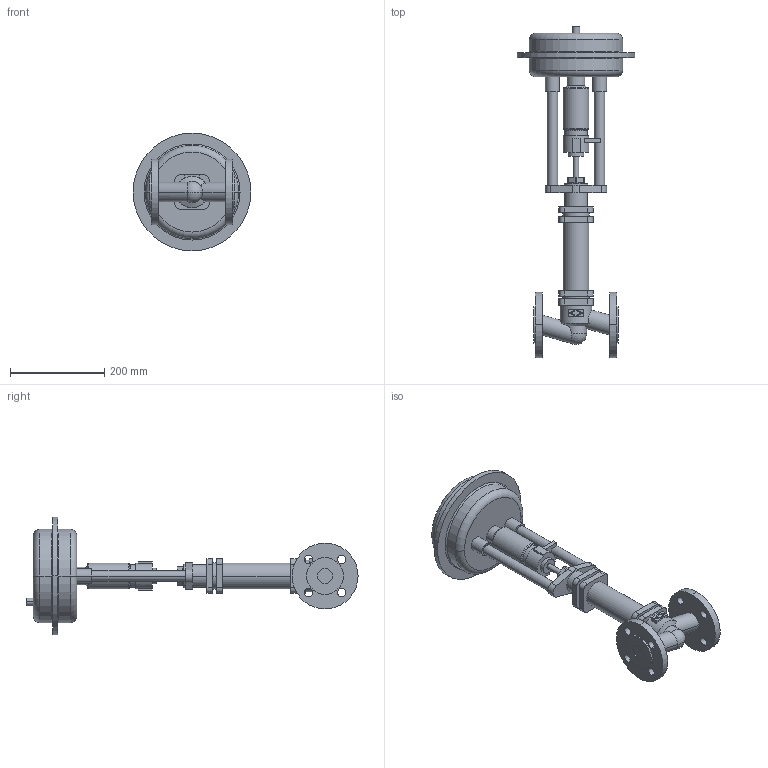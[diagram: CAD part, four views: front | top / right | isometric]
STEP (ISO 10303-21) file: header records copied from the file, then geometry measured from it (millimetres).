
FILE_DESCRIPTION(('OneSpaceDesigner STEP Export'),'2;1');
FILE_NAME('c000000376.stp','2005-12-12T10:37:02',(''),(''),'OneSpace Designer STEP processor for AP203 (Solid Model)','OneSpace Designer 13.20A 18-Aug-2005 (C) CoCreate Software GmbH','');
FILE_SCHEMA(('CONFIG_CONTROL_DESIGN'));
Length unit declared in the file: millimetre
Products named in the file (1): 1
Bounding box: 250 x 705.5 x 250 mm (x, y, z)
Volume: 5137840.3 mm3; surface area: 401051.5 mm2
Topology: 1 solids, 1 shells, 215 faces, 531 edges, 347 vertices
Faces by surface type: cylinder 102, plane 89, torus 16, cone 6, sphere 2
Entity records: 6042 total; most frequent: CARTESIAN_POINT 1171, ORIENTED_EDGE 1058, DIRECTION 915, EDGE_CURVE 529, VERTEX_POINT 347, AXIS2_PLACEMENT_3D 328, EDGE_LOOP 266, VECTOR 259
